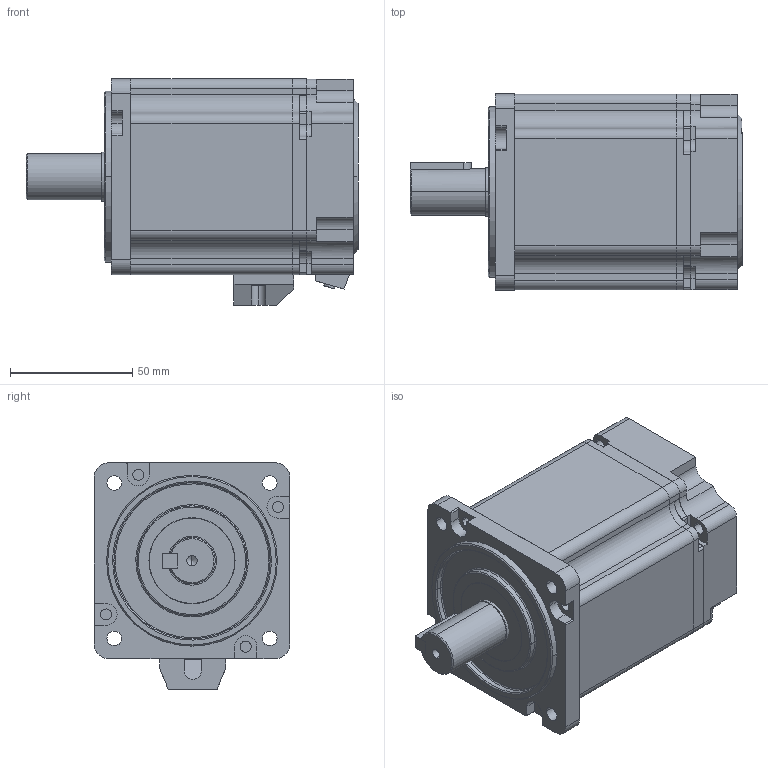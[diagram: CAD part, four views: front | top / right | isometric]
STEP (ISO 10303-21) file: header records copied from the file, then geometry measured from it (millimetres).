
FILE_DESCRIPTION (( 'STEP AP203' ), '1' );
FILE_NAME ('AS1MJ-08-0830B-G321-N.STEP', '2023-09-07T06:32:28', ( 'Admin' ), ( '' ), 'SwSTEP 2.0', 'SolidWorks 2018', '' );
FILE_SCHEMA (( 'CONFIG_CONTROL_DESIGN' ));
Length unit declared in the file: millimetre
Products named in the file (1): AS1MJ-08-0830B-G321-N
Bounding box: 136 x 80.2 x 92.7 mm (x, y, z)
Volume: 207056.3 mm3; surface area: 120481.7 mm2
Topology: 8 solids, 8 shells, 824 faces, 2171 edges, 1361 vertices
Faces by surface type: cylinder 367, plane 277, bspline 123, cone 57
Entity records: 28305 total; most frequent: CARTESIAN_POINT 7915, DIRECTION 4330, ORIENTED_EDGE 4262, EDGE_CURVE 2131, AXIS2_PLACEMENT_3D 1656, VERTEX_POINT 1361, LINE 1018, VECTOR 1018
